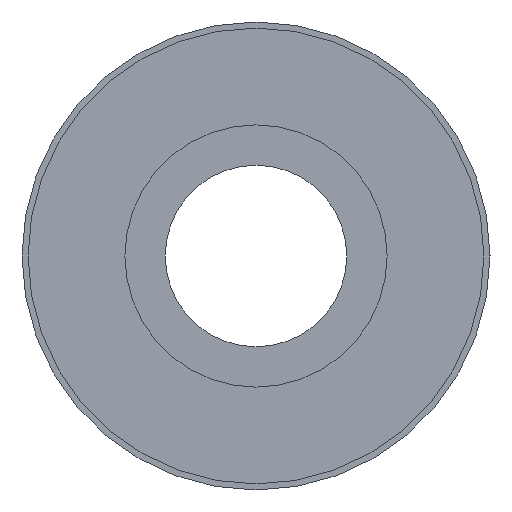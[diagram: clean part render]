
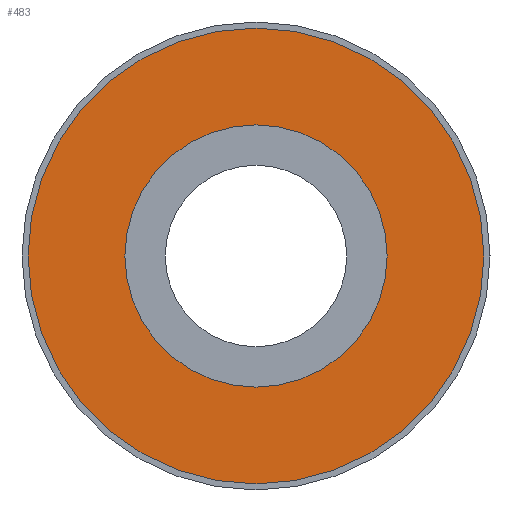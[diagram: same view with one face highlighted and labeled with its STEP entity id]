
A CAD part, left-side view. The second image highlights one B-rep face of the part: STEP entity #483.
In plain terms, the highlighted planar face has unit normal (-1, 0, 0).
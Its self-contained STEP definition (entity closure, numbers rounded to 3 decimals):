
#81=ORIENTED_EDGE('',*,*,#199,.T.);
#82=ORIENTED_EDGE('',*,*,#200,.F.);
#199=EDGE_CURVE('',#258,#258,#305,.T.);
#200=EDGE_CURVE('',#259,#259,#306,.T.);
#258=VERTEX_POINT('',#774);
#259=VERTEX_POINT('',#776);
#305=CIRCLE('',#533,6.5);
#306=CIRCLE('',#534,11.3);
#340=EDGE_LOOP('',(#81));
#341=EDGE_LOOP('',(#82));
#400=FACE_BOUND('',#340,.T.);
#401=FACE_BOUND('',#341,.T.);
#460=PLANE('',#532);
#483=ADVANCED_FACE('',(#400,#401),#460,.T.);
#532=AXIS2_PLACEMENT_3D('',#772,#605,#606);
#533=AXIS2_PLACEMENT_3D('',#773,#607,#608);
#534=AXIS2_PLACEMENT_3D('',#775,#609,#610);
#605=DIRECTION('',(-1.,0.,0.));
#606=DIRECTION('',(0.,0.,1.));
#607=DIRECTION('',(1.,0.,0.));
#608=DIRECTION('',(0.,0.,-1.));
#609=DIRECTION('',(1.,0.,0.));
#610=DIRECTION('',(0.,0.,-1.));
#772=CARTESIAN_POINT('',(0.,11.3,0.));
#773=CARTESIAN_POINT('',(0.,0.,0.));
#774=CARTESIAN_POINT('',(0.,0.,-6.5));
#775=CARTESIAN_POINT('',(0.,0.,0.));
#776=CARTESIAN_POINT('',(0.,0.,-11.3));
